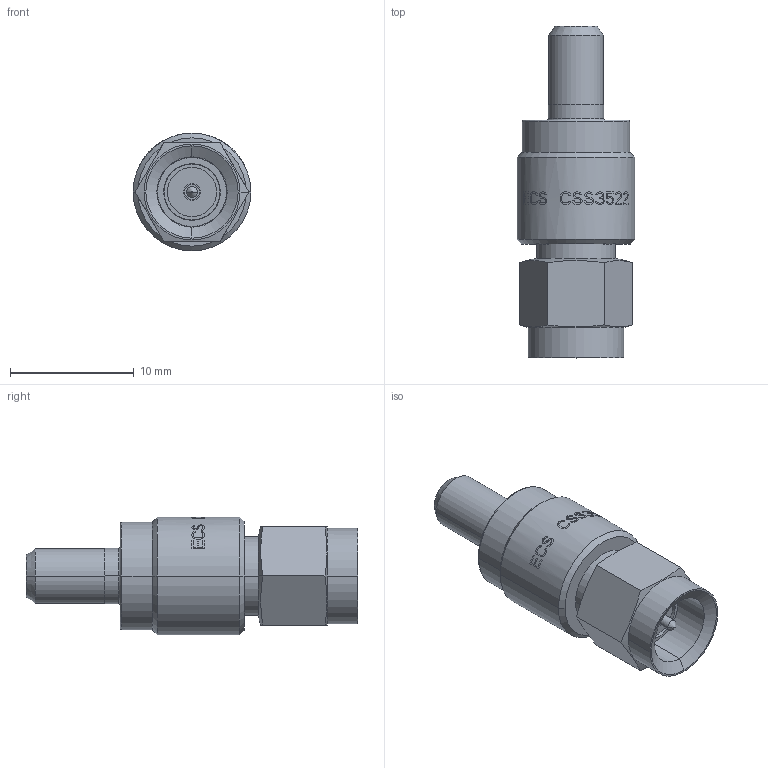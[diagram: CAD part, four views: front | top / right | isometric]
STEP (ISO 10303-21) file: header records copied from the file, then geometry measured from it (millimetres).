
FILE_DESCRIPTION((''),'2;1');
FILE_NAME('CSS3522','2019-11-22T15:18:43',('paul.nurczyk'),('Carlisle Interconnect Technologies'),'CREO PARAMETRIC BY PTC INC, 2017260','CREO PARAMETRIC BY PTC INC, 2017260','');
FILE_SCHEMA(('CONFIG_CONTROL_DESIGN'));
Length unit declared in the file: inch
Products named in the file (1): CSS3522
Bounding box: 9.53 x 26.87 x 9.53 mm (x, y, z)
Volume: 1147.7 mm3; surface area: 935.4 mm2
Topology: 1 solids, 12 shells, 500 faces, 1776 edges, 1311 vertices
Faces by surface type: bspline 299, plane 131, cylinder 48, cone 14, torus 8
Entity records: 27598 total; most frequent: CARTESIAN_POINT 14858, ORIENTED_EDGE 3145, EDGE_CURVE 1776, DIRECTION 1557, VERTEX_POINT 1311, B_SPLINE_CURVE_WITH_KNOTS 912, VECTOR 575, LINE 575
